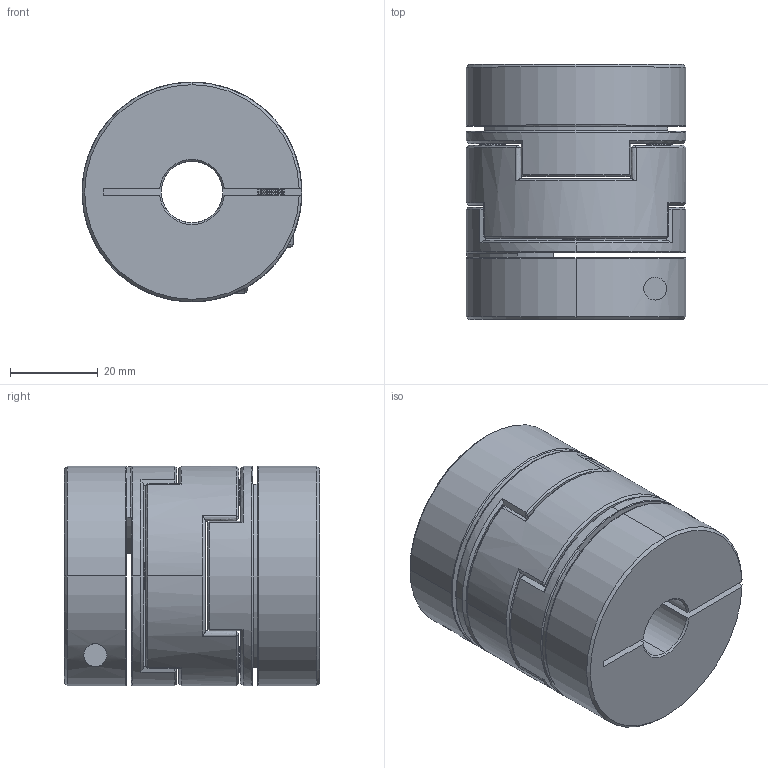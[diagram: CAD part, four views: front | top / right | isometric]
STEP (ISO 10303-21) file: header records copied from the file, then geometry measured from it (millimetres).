
FILE_DESCRIPTION (( 'STEP AP203' ), '1' );
FILE_NAME ('LZ-B-D50L58-14-14.STEP', '2021-10-29T08:05:23', ( '' ), ( '' ), 'SwSTEP 2.0', 'SolidWorks 2018', '' );
FILE_SCHEMA (( 'CONFIG_CONTROL_DESIGN' ));
Length unit declared in the file: millimetre
Products named in the file (1): LZ-B-D50L58-14-14
Bounding box: 50 x 58 x 50 mm (x, y, z)
Volume: 95422.5 mm3; surface area: 30223.9 mm2
Topology: 1 solids, 27 shells, 560 faces, 1364 edges, 810 vertices
Faces by surface type: cone 252, cylinder 160, plane 90, bspline 54, torus 4
Entity records: 17422 total; most frequent: CARTESIAN_POINT 4342, DIRECTION 2782, ORIENTED_EDGE 2720, EDGE_CURVE 1360, AXIS2_PLACEMENT_3D 1123, VERTEX_POINT 810, CIRCLE 616, EDGE_LOOP 594
